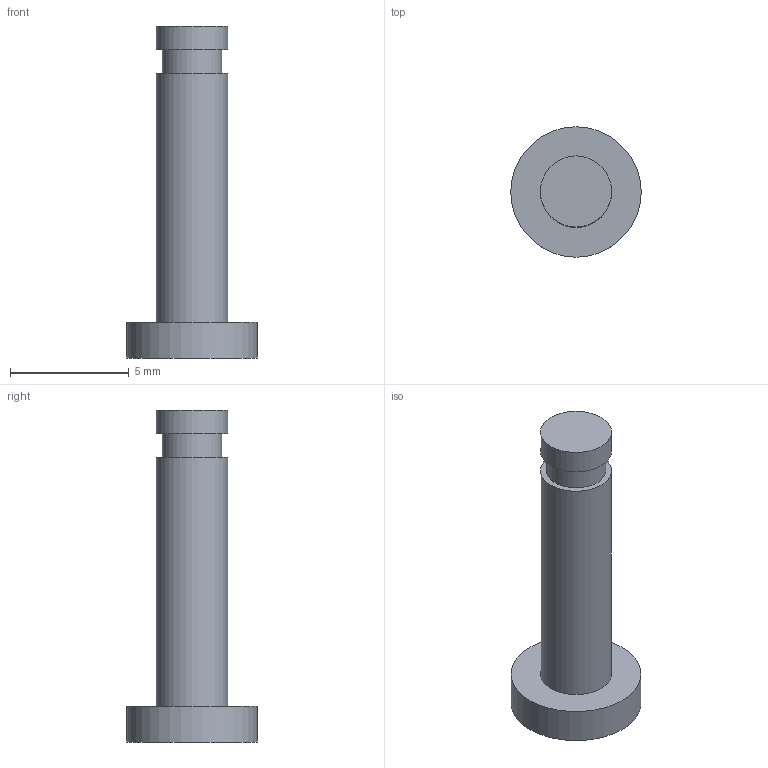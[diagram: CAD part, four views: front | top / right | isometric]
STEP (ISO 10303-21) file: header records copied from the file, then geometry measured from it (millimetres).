
FILE_DESCRIPTION(('Open CASCADE Model'),'2;1');
FILE_NAME('F09-PIN3-L14','2026-11-15T22:32:13',('Author'),( 'Open CASCADE'),'Open CASCADE STEP processor 8.0','build123d', 'Unknown');
FILE_SCHEMA(('AUTOMOTIVE_DESIGN { 1 0 10303 214 1 1 1 1 }'));
Length unit declared in the file: millimetre
Products named in the file (1): F09-PIN3-L14
Bounding box: 5.5 x 5.5 x 14 mm (x, y, z)
Volume: 121.8 mm3; surface area: 194 mm2
Topology: 1 solids, 1 shells, 9 faces, 12 edges, 8 vertices
Faces by surface type: plane 5, cylinder 4
Full cylindrical faces by diameter (mm): 2.5 x1, 3 x2, 5.5 x1
Entity records: 360 total; most frequent: DIRECTION 64, CARTESIAN_POINT 54, ORIENTED_EDGE 24, PCURVE 24, DEFINITIONAL_REPRESENTATION 24, LINE 20, VECTOR 20, AXIS2_PLACEMENT_3D 18
